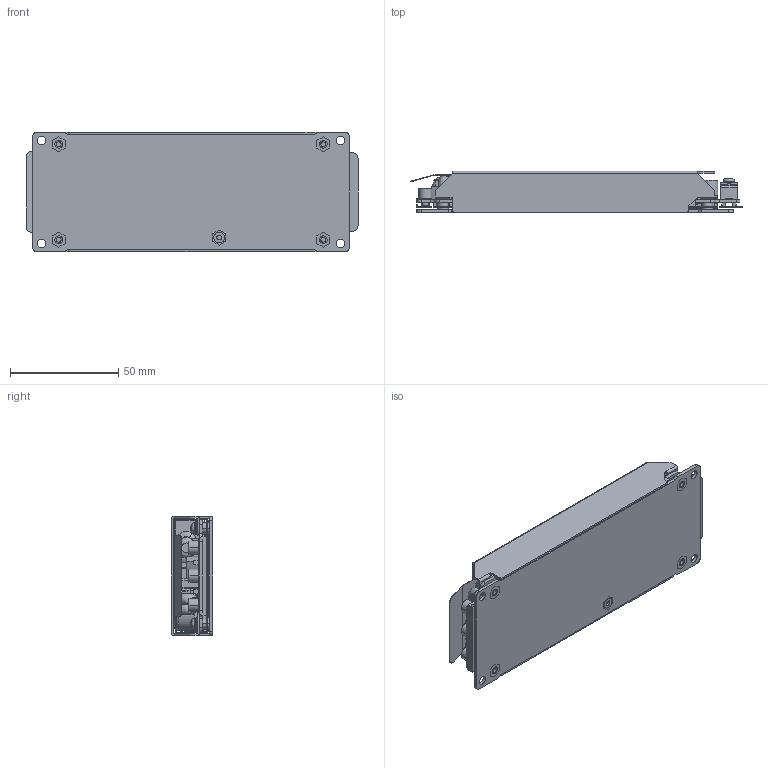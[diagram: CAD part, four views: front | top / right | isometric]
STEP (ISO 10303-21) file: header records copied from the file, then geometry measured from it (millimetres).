
FILE_DESCRIPTION((''),'2;1');
FILE_NAME('0TOP_VAT-UP200S-4_2-19H-B','2022-08-23T11:44:02',('pd068'),(''),'CREO PARAMETRIC BY PTC INC, 2017260','CREO PARAMETRIC BY PTC INC, 2017260','');
FILE_SCHEMA(('CONFIG_CONTROL_DESIGN','SHAPE_APPEARANCE_LAYERS_GROUPS'));
Products named in the file (1): 0TOP_VAT-UP200S-4_2-19H-B
Bounding box: 153.09 x 19 x 55 mm (x, y, z)
Surface area: 118072.9 mm2 (no closed solid volume)
Topology: 0 solids, 405 shells, 2666 faces, 8409 edges, 6008 vertices
Faces by surface type: plane 1885, cylinder 532, torus 130, bspline 62, sphere 32, cone 25
Entity records: 112748 total; most frequent: CARTESIAN_POINT 22300, DIRECTION 15428, ORIENTED_EDGE 13015, EDGE_CURVE 8371, VECTOR 6206, LINE 6206, VERTEX_POINT 6008, AXIS2_PLACEMENT_3D 4611
